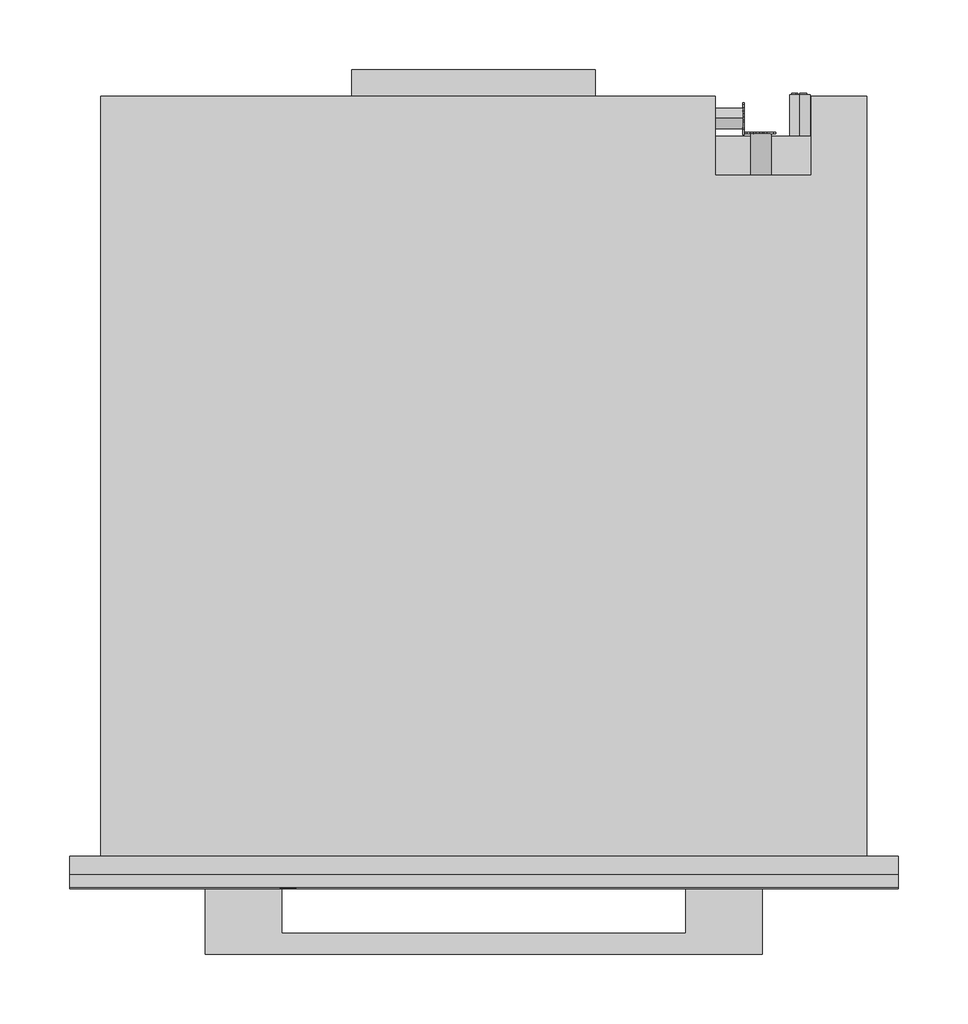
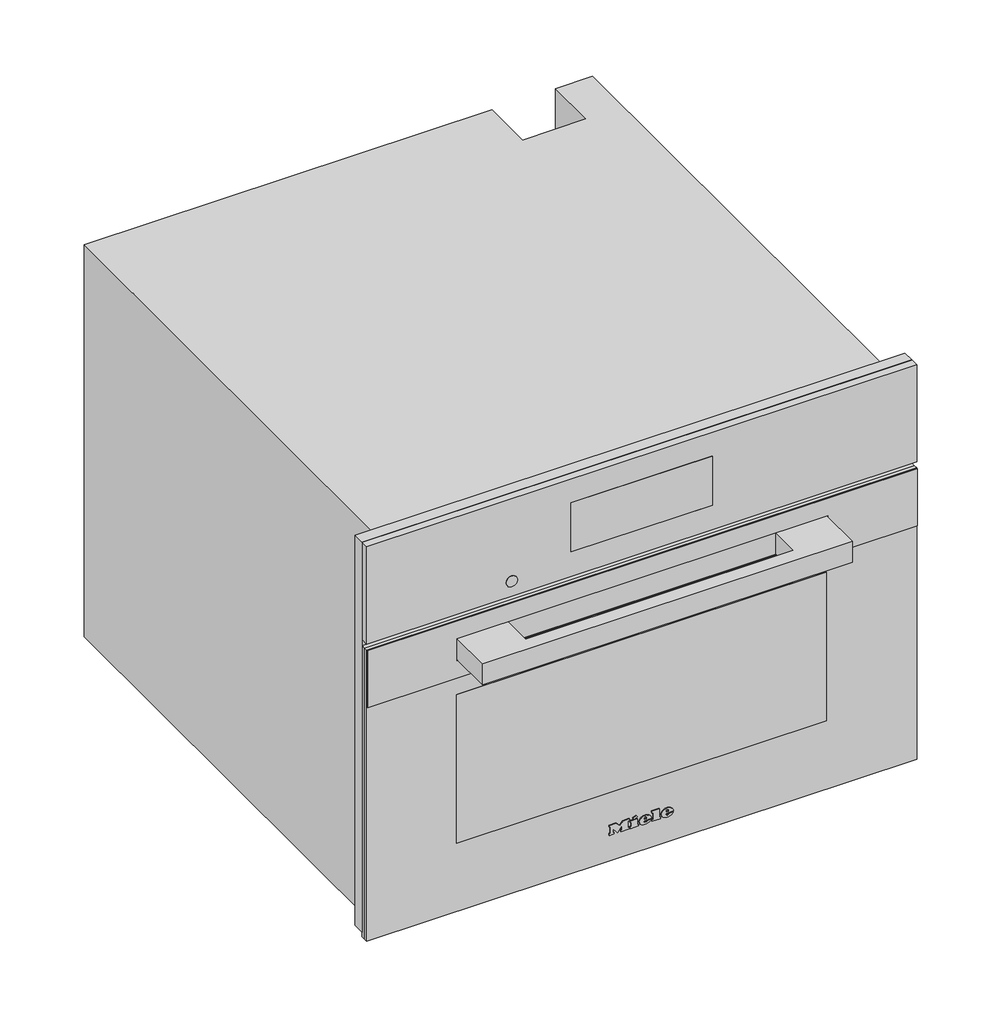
# Not in any storey: 1 proxy.
"""IFC4 building model written with IfcOpenShell, lengths in millimetres."""

from ifc_helpers import new_model, si_unit, origin, place, context, project, spatial, transform, mapped, element, save
from components import specialty_equipment_0c457f22

model = new_model("IFC4")

# Units and contexts
model_context = context("Model", 3, world=origin())
ifc_project = project(units=[si_unit("LENGTHUNIT", "METRE", prefix="MILLI")], contexts=[model_context])

# Site, building
site = spatial("IfcSite", under=ifc_project)
building = spatial("IfcBuilding", under=site)

# Proxy
placement = place(None, origin())
specialty_equipment_shape = specialty_equipment_0c457f22(model_context)
element("IfcBuildingElementProxy", 1, Name="11876580_USA_DGC7845_EDST-CLST : 23784542_USA_11876580_DGC7845_EDST-CLST", ObjectType="11876580_USA_DGC7845_EDST-CLST : 23784542_USA_11876580_DGC7845_EDST-CLST", at=placement, inside=building, context=model_context, shape_type="MappedRepresentation", body=[
    mapped(specialty_equipment_shape, transform((0.0, 0.0, 0.0), x_axis=(1.0, 0.0, 0.0), y_axis=(0.0, 1.0, 0.0), z_axis=(0.0, 0.0, 1.0))),
])

save(model, "model.ifc")
